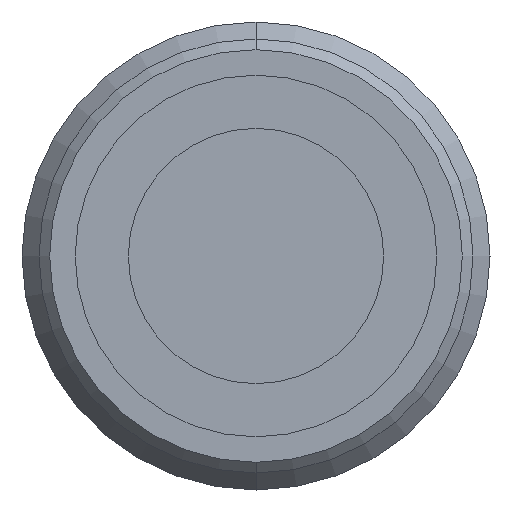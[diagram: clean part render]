
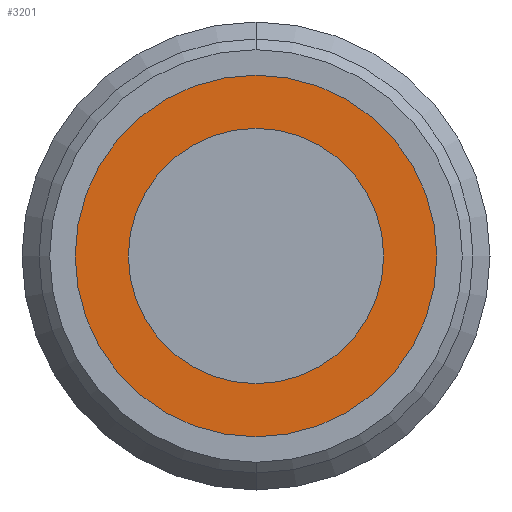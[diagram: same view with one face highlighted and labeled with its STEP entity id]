
A CAD part, front view. The second image highlights one B-rep face of the part: STEP entity #3201.
In plain terms, the highlighted planar face has unit normal (0, -1, 0).
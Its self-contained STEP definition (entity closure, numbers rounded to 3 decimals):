
#140 = DIRECTION ( 'NONE',  ( 0., 0., 1. ) ) ;
#576 = EDGE_CURVE ( 'NONE', #638, #4893, #3369, .T. ) ;
#638 = VERTEX_POINT ( 'NONE', #6991 ) ;
#733 = DIRECTION ( 'NONE',  ( 0., 0., -1. ) ) ;
#1031 = CARTESIAN_POINT ( 'NONE',  ( 0., 0.101, 0. ) ) ;
#1556 = EDGE_LOOP ( 'NONE', ( #6144, #7059 ) ) ;
#1879 = DIRECTION ( 'NONE',  ( 0., 0., -1. ) ) ;
#1915 = DIRECTION ( 'NONE',  ( 0., -1., 0. ) ) ;
#2119 = CIRCLE ( 'NONE', #9985, 8.5 ) ;
#2364 = AXIS2_PLACEMENT_3D ( 'NONE', #7144, #1915, #8070 ) ;
#2492 = ORIENTED_EDGE ( 'NONE', *, *, #576, .T. ) ;
#2516 = CARTESIAN_POINT ( 'NONE',  ( 0., 0.101, -6. ) ) ;
#3201 = ADVANCED_FACE ( 'NONE', ( #10943, #8711 ), #4389, .F. ) ;
#3369 = CIRCLE ( 'NONE', #11003, 8.5 ) ;
#3533 = VERTEX_POINT ( 'NONE', #2516 ) ;
#3635 = EDGE_CURVE ( 'NONE', #3533, #4490, #8556, .T. ) ;
#4389 = PLANE ( 'NONE',  #7250 ) ;
#4490 = VERTEX_POINT ( 'NONE', #11268 ) ;
#4893 = VERTEX_POINT ( 'NONE', #9105 ) ;
#5273 = DIRECTION ( 'NONE',  ( 0., 1., 0. ) ) ;
#5328 = AXIS2_PLACEMENT_3D ( 'NONE', #1031, #7108, #1879 ) ;
#5880 = DIRECTION ( 'NONE',  ( 0., -1., 0. ) ) ;
#6144 = ORIENTED_EDGE ( 'NONE', *, *, #3635, .F. ) ;
#6482 = EDGE_CURVE ( 'NONE', #4490, #3533, #7331, .T. ) ;
#6991 = CARTESIAN_POINT ( 'NONE',  ( 0., 0.101, 8.5 ) ) ;
#7059 = ORIENTED_EDGE ( 'NONE', *, *, #6482, .F. ) ;
#7108 = DIRECTION ( 'NONE',  ( 0., -1., 0. ) ) ;
#7144 = CARTESIAN_POINT ( 'NONE',  ( 0., 0.101, 0. ) ) ;
#7250 = AXIS2_PLACEMENT_3D ( 'NONE', #9884, #5273, #140 ) ;
#7331 = CIRCLE ( 'NONE', #5328, 6. ) ;
#8070 = DIRECTION ( 'NONE',  ( 0., 0., -1. ) ) ;
#8328 = ORIENTED_EDGE ( 'NONE', *, *, #8681, .T. ) ;
#8556 = CIRCLE ( 'NONE', #2364, 6. ) ;
#8576 = EDGE_LOOP ( 'NONE', ( #8328, #2492 ) ) ;
#8681 = EDGE_CURVE ( 'NONE', #4893, #638, #2119, .T. ) ;
#8711 = FACE_OUTER_BOUND ( 'NONE', #8576, .T. ) ;
#8946 = DIRECTION ( 'NONE',  ( 0., 0., -1. ) ) ;
#9042 = DIRECTION ( 'NONE',  ( 0., -1., 0. ) ) ;
#9080 = CARTESIAN_POINT ( 'NONE',  ( 0., 0.101, 0. ) ) ;
#9105 = CARTESIAN_POINT ( 'NONE',  ( 0., 0.101, -8.5 ) ) ;
#9884 = CARTESIAN_POINT ( 'NONE',  ( -8.5, 0.101, 0. ) ) ;
#9985 = AXIS2_PLACEMENT_3D ( 'NONE', #11481, #5880, #733 ) ;
#10943 = FACE_BOUND ( 'NONE', #1556, .T. ) ;
#11003 = AXIS2_PLACEMENT_3D ( 'NONE', #9080, #9042, #8946 ) ;
#11268 = CARTESIAN_POINT ( 'NONE',  ( 0., 0.101, 6. ) ) ;
#11481 = CARTESIAN_POINT ( 'NONE',  ( 0., 0.101, 0. ) ) ;
